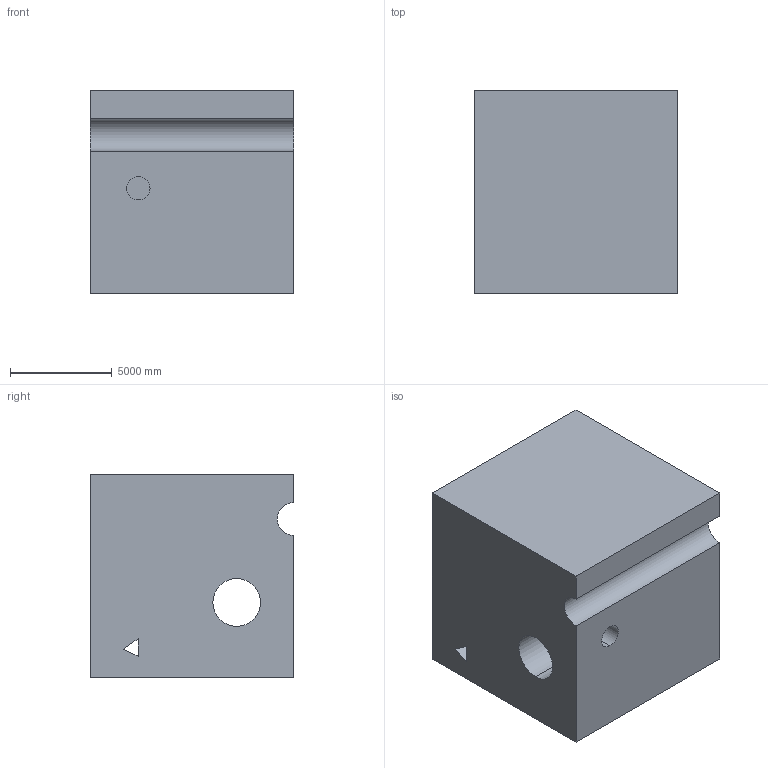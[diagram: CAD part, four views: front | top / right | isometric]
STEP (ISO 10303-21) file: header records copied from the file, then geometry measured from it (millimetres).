
FILE_DESCRIPTION (( 'STEP AP203' ), '1' );
FILE_NAME ('135.STEP', '2022-09-06T15:10:40', ( 'user' ), ( '' ), 'SwSTEP 2.0', 'SolidWorks 2021', '' );
FILE_SCHEMA (( 'CONFIG_CONTROL_DESIGN' ));
Length unit declared in the file: centimetre
Products named in the file (1): 135
Bounding box: 10000 x 10000 x 10000 mm (x, y, z)
Volume: 941855883659.5 mm3; surface area: 702321304.6 mm2
Topology: 1 solids, 1 shells, 16 faces, 39 edges, 26 vertices
Faces by surface type: plane 11, cylinder 5
Entity records: 558 total; most frequent: DIRECTION 83, CARTESIAN_POINT 82, ORIENTED_EDGE 78, EDGE_CURVE 39, LINE 29, VECTOR 29, AXIS2_PLACEMENT_3D 27, VERTEX_POINT 26
